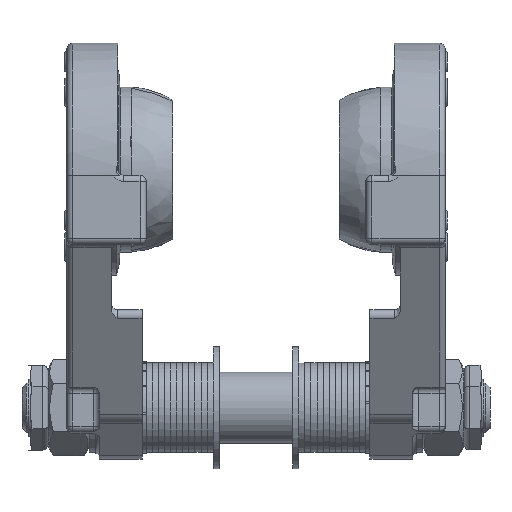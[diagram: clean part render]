
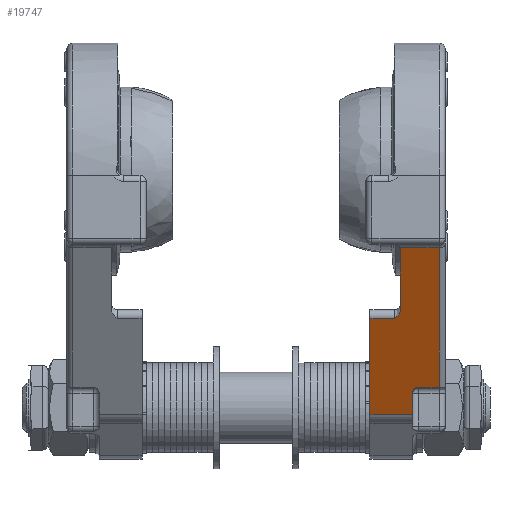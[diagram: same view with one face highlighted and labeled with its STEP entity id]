
A CAD part, top view. The second image highlights one B-rep face of the part: STEP entity #19747.
In plain terms, the highlighted planar face has unit normal (0, -0.49, 0.872).
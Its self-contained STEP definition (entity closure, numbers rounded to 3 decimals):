
#7357=CARTESIAN_POINT('',(-12.05,-69.743,211.283));
#7358=VERTEX_POINT('',#7357);
#7366=CARTESIAN_POINT('',(-12.05,-40.803,227.546));
#7367=VERTEX_POINT('',#7366);
#7368=CARTESIAN_POINT('',(-12.05,-69.743,211.283));
#7369=DIRECTION('',(0.,0.872,0.49));
#7370=VECTOR('',#7369,33.196);
#7371=LINE('',#7368,#7370);
#7372=EDGE_CURVE('',#7358,#7367,#7371,.T.);
#13520=CARTESIAN_POINT('',(-3.05,-107.803,189.895));
#13521=VERTEX_POINT('',#13520);
#13528=CARTESIAN_POINT('',(-6.05,-110.803,188.209));
#13529=VERTEX_POINT('',#13528);
#13530=CARTESIAN_POINT('',(-3.05,-110.803,188.209));
#13531=DIRECTION('',(0.,-0.49,0.872));
#13532=DIRECTION('',(0.,0.872,0.49));
#13533=AXIS2_PLACEMENT_3D('',#13530,#13531,#13532);
#13534=ELLIPSE('',#13533,3.441,3.);
#13535=EDGE_CURVE('',#13521,#13529,#13534,.T.);
#13601=CARTESIAN_POINT('',(-6.05,-121.105,182.42));
#13602=VERTEX_POINT('',#13601);
#13603=CARTESIAN_POINT('',(-6.05,-121.105,182.42));
#13604=DIRECTION('',(0.,0.872,0.49));
#13605=VECTOR('',#13604,11.817);
#13606=LINE('',#13603,#13605);
#13607=EDGE_CURVE('',#13602,#13529,#13606,.T.);
#19123=CARTESIAN_POINT('',(-27.05,-121.105,182.42));
#19124=VERTEX_POINT('',#19123);
#19132=CARTESIAN_POINT('',(-27.05,-74.273,208.738));
#19133=VERTEX_POINT('',#19132);
#19134=CARTESIAN_POINT('',(-27.05,-74.273,208.738));
#19135=DIRECTION('',(0.,-0.872,-0.49));
#19136=VECTOR('',#19135,53.72);
#19137=LINE('',#19134,#19136);
#19138=EDGE_CURVE('',#19133,#19124,#19137,.T.);
#19493=CARTESIAN_POINT('',(-15.05,-74.273,208.738));
#19494=VERTEX_POINT('',#19493);
#19502=CARTESIAN_POINT('',(-15.05,-74.273,208.738));
#19503=CARTESIAN_POINT('',(-14.507,-73.799,209.004));
#19504=CARTESIAN_POINT('',(-13.891,-73.264,209.305));
#19505=CARTESIAN_POINT('',(-13.383,-72.691,209.627));
#19506=CARTESIAN_POINT('',(-13.179,-72.461,209.756));
#19507=CARTESIAN_POINT('',(-12.991,-72.225,209.888));
#19508=CARTESIAN_POINT('',(-12.829,-71.988,210.021));
#19509=CARTESIAN_POINT('',(-12.72,-71.83,210.111));
#19510=CARTESIAN_POINT('',(-12.624,-71.673,210.198));
#19511=CARTESIAN_POINT('',(-12.532,-71.503,210.294));
#19512=CARTESIAN_POINT('',(-12.373,-71.209,210.459));
#19513=CARTESIAN_POINT('',(-12.239,-70.885,210.641));
#19514=CARTESIAN_POINT('',(-12.155,-70.557,210.826));
#19515=CARTESIAN_POINT('',(-12.105,-70.36,210.936));
#19516=CARTESIAN_POINT('',(-12.072,-70.162,211.048));
#19517=CARTESIAN_POINT('',(-12.058,-69.969,211.156));
#19518=CARTESIAN_POINT('',(-12.053,-69.892,211.199));
#19519=CARTESIAN_POINT('',(-12.05,-69.818,211.241));
#19520=CARTESIAN_POINT('',(-12.05,-69.743,211.283));
#19521=B_SPLINE_CURVE_WITH_KNOTS('',3,(#19502,#19503,#19504,#19505,#19506,#19507,#19508,#19509,#19510,#19511,#19512,#19513,#19514,#19515,#19516,#19517,#19518,#19519,#19520),.UNSPECIFIED.,.F.,.U.,(4,3,3,3,3,3,4),(0.0,0.231,0.323,0.385,0.492,0.557,0.582),.UNSPECIFIED.);
#19522=EDGE_CURVE('',#19494,#7358,#19521,.T.);
#19688=CARTESIAN_POINT('',(-27.05,-74.273,208.738));
#19689=DIRECTION('',(1.0,0.0,0.0));
#19690=VECTOR('',#19689,12.);
#19691=LINE('',#19688,#19690);
#19692=EDGE_CURVE('',#19133,#19494,#19691,.T.);
#19697=CARTESIAN_POINT('',(0.0,-124.295,180.628));
#19698=DIRECTION('',(0.0,-0.49,0.872));
#19699=DIRECTION('',(1.0,0.0,0.0));
#19700=AXIS2_PLACEMENT_3D('',#19697,#19698,#19699);
#19701=PLANE('',#19700);
#19702=ORIENTED_EDGE('',*,*,#19522,.F.);
#19703=ORIENTED_EDGE('',*,*,#19692,.F.);
#19704=ORIENTED_EDGE('',*,*,#19138,.T.);
#19705=CARTESIAN_POINT('',(-6.05,-121.105,182.42));
#19706=DIRECTION('',(-1.0,0.0,0.0));
#19707=VECTOR('',#19706,21.0);
#19708=LINE('',#19705,#19707);
#19709=EDGE_CURVE('',#13602,#19124,#19708,.T.);
#19710=ORIENTED_EDGE('',*,*,#19709,.F.);
#19711=ORIENTED_EDGE('',*,*,#13607,.T.);
#19712=ORIENTED_EDGE('',*,*,#13535,.F.);
#19713=CARTESIAN_POINT('',(6.95,-107.803,189.895));
#19714=VERTEX_POINT('',#19713);
#19715=CARTESIAN_POINT('',(-3.05,-107.803,189.895));
#19716=DIRECTION('',(1.0,0.0,0.0));
#19717=VECTOR('',#19716,10.);
#19718=LINE('',#19715,#19717);
#19719=EDGE_CURVE('',#13521,#19714,#19718,.T.);
#19720=ORIENTED_EDGE('',*,*,#19719,.T.);
#19721=CARTESIAN_POINT('',(6.95,-39.333,228.372));
#19722=VERTEX_POINT('',#19721);
#19723=CARTESIAN_POINT('',(6.95,-39.333,228.372));
#19724=DIRECTION('',(0.,-0.872,-0.49));
#19725=VECTOR('',#19724,78.54);
#19726=LINE('',#19723,#19725);
#19727=EDGE_CURVE('',#19722,#19714,#19726,.T.);
#19728=ORIENTED_EDGE('',*,*,#19727,.F.);
#19729=CARTESIAN_POINT('',(-12.435,-39.333,228.372));
#19730=VERTEX_POINT('',#19729);
#19731=CARTESIAN_POINT('',(-12.435,-39.333,228.372));
#19732=DIRECTION('',(1.0,0.0,0.0));
#19733=VECTOR('',#19732,19.385);
#19734=LINE('',#19731,#19733);
#19735=EDGE_CURVE('',#19730,#19722,#19734,.T.);
#19736=ORIENTED_EDGE('',*,*,#19735,.F.);
#19737=CARTESIAN_POINT('',(-15.05,-40.803,227.546));
#19738=DIRECTION('',(0.,-0.49,0.872));
#19739=DIRECTION('',(0.,0.872,0.49));
#19740=AXIS2_PLACEMENT_3D('',#19737,#19738,#19739);
#19741=ELLIPSE('',#19740,3.441,3.0);
#19742=EDGE_CURVE('',#19730,#7367,#19741,.F.);
#19743=ORIENTED_EDGE('',*,*,#19742,.T.);
#19744=ORIENTED_EDGE('',*,*,#7372,.F.);
#19745=EDGE_LOOP('',(#19702,#19703,#19704,#19710,#19711,#19712,#19720,#19728,#19736,#19743,#19744));
#19746=FACE_OUTER_BOUND('',#19745,.T.);
#19747=ADVANCED_FACE('',(#19746),#19701,.T.);
